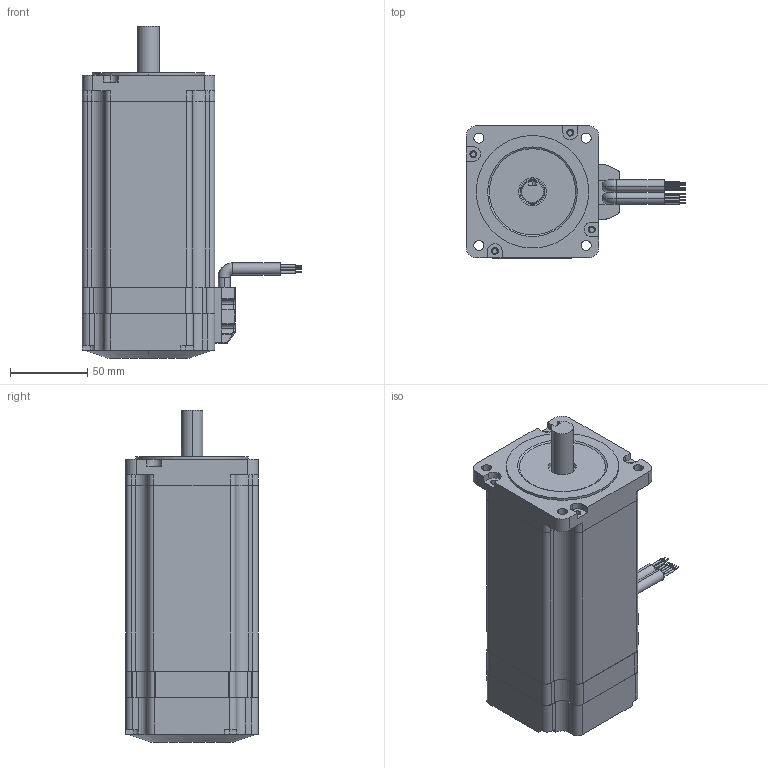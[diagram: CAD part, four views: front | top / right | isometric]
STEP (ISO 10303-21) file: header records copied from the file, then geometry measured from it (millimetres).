
FILE_DESCRIPTION (( 'STEP AP214' ), '1' );
FILE_NAME ('S86-155-3M.STEP', '2025-01-09T08:39:01', ( 'Muse' ), ( 'Muse' ), 'SwSTEP 2.0', 'SolidWorks 2020', '' );
FILE_SCHEMA (( 'AUTOMOTIVE_DESIGN' ));
Length unit declared in the file: millimetre
Products named in the file (12): S86-155-3M; 蛌粣; 86ヶ裔; 35-27-0.5 疏菜_35-27-0.5 疏菜; 86 綴欶; 晤鎢ん郪璃; 86揤盄輸  4邧謂; 蛌赽郪璃; 6202 粣創; 86綴裔; 86隅赽; 盄旰
Assembly tree (12 placements, depth 3):
  S86-155-3M
    86綴裔
    86隅赽
    86ヶ裔
    蛌赽郪璃
      蛌粣
      6202 粣創  x2
    35-27-0.5 疏菜_35-27-0.5 疏菜
    晤鎢ん郪璃
      86揤盄輸  4邧謂
      盄旰
      86 綴欶
Bounding box: 142.59 x 85.99 x 215.5 mm (x, y, z)
Volume: 633249.2 mm3; surface area: 263923.4 mm2
Topology: 11 solids, 11 shells, 1238 faces, 3778 edges, 2423 vertices
Faces by surface type: cylinder 616, plane 361, sphere 117, torus 116, bspline 18, cone 10
Entity records: 38667 total; most frequent: CARTESIAN_POINT 7816, DIRECTION 6491, ORIENTED_EDGE 6320, EDGE_CURVE 3160, AXIS2_PLACEMENT_3D 2501, VERTEX_POINT 2078, LINE 1489, VECTOR 1489
